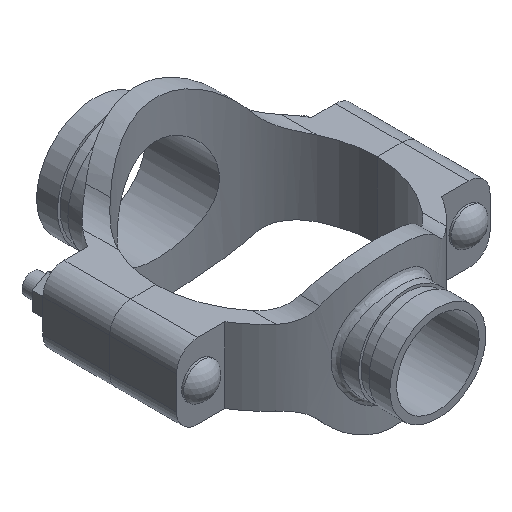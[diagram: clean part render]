
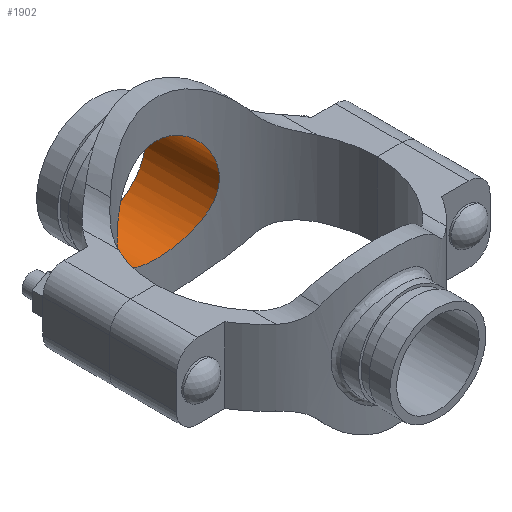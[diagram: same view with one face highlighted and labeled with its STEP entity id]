
A CAD part, isometric view. The second image highlights one B-rep face of the part: STEP entity #1902.
In plain terms, the highlighted cylindrical face has radius 38.894 mm (diameter 77.787 mm), a full revolution.
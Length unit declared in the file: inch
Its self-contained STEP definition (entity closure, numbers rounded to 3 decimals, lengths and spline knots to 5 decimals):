
#33=B_SPLINE_CURVE_WITH_KNOTS('',3,(#3260,#3261,#3262,#3263,#3264,#3265,
#3266,#3267,#3268,#3269,#3270,#3271,#3272,#3273,#3274,#3275,#3276,#3277,
#3278,#3279,#3280,#3281,#3282,#3283,#3284,#3285,#3286,#3287,#3288,#3289,
#3290,#3291,#3292,#3293,#3294,#3295,#3296,#3297,#3298,#3299,#3300,#3301,
#3302,#3303,#3304,#3305,#3306,#3307,#3308,#3309,#3310,#3311,#3312,#3313,
#3314,#3315,#3316,#3317,#3318,#3319,#3320,#3321,#3322,#3323,#3324,#3325),
 .UNSPECIFIED.,.T.,.F.,(4,2,2,2,2,2,2,2,2,2,2,2,2,2,2,2,2,2,2,2,2,2,2,2,
2,2,2,2,2,2,2,2,4),(0.,0.74578,1.49156,2.23734,
2.98312,3.72747,4.47183,5.21618,5.96054,
6.70489,7.44924,8.1936,8.93795,9.68373,
10.42951,11.17529,11.92107,12.66685,13.41263,
14.15841,14.90419,15.64855,16.3929,17.13726,
17.88161,18.62596,19.37032,20.11467,20.85903,
21.60481,22.35059,23.09637,23.84215),
 .UNSPECIFIED.);
#71=CYLINDRICAL_SURFACE('',#2102,1.53125);
#168=FACE_OUTER_BOUND('',#279,.T.);
#279=EDGE_LOOP('',(#1352,#1353,#1354,#1355));
#422=LINE('',#3259,#568);
#568=VECTOR('',#2434,1.53125);
#687=CIRCLE('',#2103,1.53125);
#814=VERTEX_POINT('',#3256);
#815=VERTEX_POINT('',#3258);
#1020=EDGE_CURVE('',#814,#814,#687,.T.);
#1021=EDGE_CURVE('',#814,#815,#422,.T.);
#1022=EDGE_CURVE('',#815,#815,#33,.T.);
#1352=ORIENTED_EDGE('',*,*,#1020,.F.);
#1353=ORIENTED_EDGE('',*,*,#1021,.T.);
#1354=ORIENTED_EDGE('',*,*,#1022,.F.);
#1355=ORIENTED_EDGE('',*,*,#1021,.F.);
#1902=ADVANCED_FACE('',(#168),#71,.F.);
#2102=AXIS2_PLACEMENT_3D('',#3255,#2430,#2431);
#2103=AXIS2_PLACEMENT_3D('',#3257,#2432,#2433);
#2430=DIRECTION('center_axis',(0.,-1.,0.));
#2431=DIRECTION('ref_axis',(-1.,0.,0.));
#2432=DIRECTION('center_axis',(0.,-1.,0.));
#2433=DIRECTION('ref_axis',(-1.,0.,0.));
#2434=DIRECTION('',(0.,-1.,0.));
#3255=CARTESIAN_POINT('Origin',(0.,5.13,0.));
#3256=CARTESIAN_POINT('',(1.53125,5.13,0.));
#3257=CARTESIAN_POINT('Origin',(0.,5.13,0.));
#3258=CARTESIAN_POINT('',(1.53125,2.93733,0.));
#3259=CARTESIAN_POINT('',(1.53125,5.13,0.));
#3260=CARTESIAN_POINT('Ctrl Pts',(1.53125,2.93733,0.));
#3261=CARTESIAN_POINT('Ctrl Pts',(1.53125,2.93733,-0.09787));
#3262=CARTESIAN_POINT('Ctrl Pts',(1.52172,2.94237,-0.1985));
#3263=CARTESIAN_POINT('Ctrl Pts',(1.48221,2.96246,-0.39759));
#3264=CARTESIAN_POINT('Ctrl Pts',(1.45225,2.9775,-0.49606));
#3265=CARTESIAN_POINT('Ctrl Pts',(1.37371,3.01454,-0.68412));
#3266=CARTESIAN_POINT('Ctrl Pts',(1.32507,3.03653,-0.77388));
#3267=CARTESIAN_POINT('Ctrl Pts',(1.21321,3.08293,-0.93959));
#3268=CARTESIAN_POINT('Ctrl Pts',(1.14998,3.10729,-1.01553));
#3269=CARTESIAN_POINT('Ctrl Pts',(1.01566,3.15375,-1.14985));
#3270=CARTESIAN_POINT('Ctrl Pts',(0.93978,3.17755,-1.21307));
#3271=CARTESIAN_POINT('Ctrl Pts',(0.77405,3.22194,-1.32498));
#3272=CARTESIAN_POINT('Ctrl Pts',(0.68419,3.24248,-1.37369));
#3273=CARTESIAN_POINT('Ctrl Pts',(0.49594,3.27656,-1.4523));
#3274=CARTESIAN_POINT('Ctrl Pts',(0.39737,3.2901,-1.48227));
#3275=CARTESIAN_POINT('Ctrl Pts',(0.19825,3.30807,-1.52175));
#3276=CARTESIAN_POINT('Ctrl Pts',(0.09768,3.3125,-1.53125));
#3277=CARTESIAN_POINT('Ctrl Pts',(-0.09768,3.3125,-1.53125));
#3278=CARTESIAN_POINT('Ctrl Pts',(-0.19825,3.30807,-1.52175));
#3279=CARTESIAN_POINT('Ctrl Pts',(-0.39737,3.2901,-1.48227));
#3280=CARTESIAN_POINT('Ctrl Pts',(-0.49594,3.27656,-1.4523));
#3281=CARTESIAN_POINT('Ctrl Pts',(-0.68419,3.24248,-1.37369));
#3282=CARTESIAN_POINT('Ctrl Pts',(-0.77405,3.22194,-1.32498));
#3283=CARTESIAN_POINT('Ctrl Pts',(-0.93978,3.17755,-1.21307));
#3284=CARTESIAN_POINT('Ctrl Pts',(-1.01566,3.15375,-1.14985));
#3285=CARTESIAN_POINT('Ctrl Pts',(-1.14998,3.10729,-1.01553));
#3286=CARTESIAN_POINT('Ctrl Pts',(-1.21321,3.08293,-0.93959));
#3287=CARTESIAN_POINT('Ctrl Pts',(-1.32507,3.03653,-0.77388));
#3288=CARTESIAN_POINT('Ctrl Pts',(-1.37371,3.01454,-0.68412));
#3289=CARTESIAN_POINT('Ctrl Pts',(-1.45225,2.9775,-0.49606));
#3290=CARTESIAN_POINT('Ctrl Pts',(-1.48221,2.96246,-0.39759));
#3291=CARTESIAN_POINT('Ctrl Pts',(-1.52172,2.94237,-0.1985));
#3292=CARTESIAN_POINT('Ctrl Pts',(-1.53125,2.93733,-0.09787));
#3293=CARTESIAN_POINT('Ctrl Pts',(-1.53125,2.93733,0.09787));
#3294=CARTESIAN_POINT('Ctrl Pts',(-1.52172,2.94237,0.1985));
#3295=CARTESIAN_POINT('Ctrl Pts',(-1.48221,2.96246,0.39759));
#3296=CARTESIAN_POINT('Ctrl Pts',(-1.45225,2.9775,0.49606));
#3297=CARTESIAN_POINT('Ctrl Pts',(-1.37371,3.01454,0.68412));
#3298=CARTESIAN_POINT('Ctrl Pts',(-1.32507,3.03653,0.77388));
#3299=CARTESIAN_POINT('Ctrl Pts',(-1.21321,3.08293,0.93959));
#3300=CARTESIAN_POINT('Ctrl Pts',(-1.14998,3.10729,1.01553));
#3301=CARTESIAN_POINT('Ctrl Pts',(-1.01566,3.15375,1.14985));
#3302=CARTESIAN_POINT('Ctrl Pts',(-0.93978,3.17755,1.21307));
#3303=CARTESIAN_POINT('Ctrl Pts',(-0.77405,3.22194,1.32498));
#3304=CARTESIAN_POINT('Ctrl Pts',(-0.68419,3.24248,1.37369));
#3305=CARTESIAN_POINT('Ctrl Pts',(-0.49594,3.27656,1.4523));
#3306=CARTESIAN_POINT('Ctrl Pts',(-0.39737,3.2901,1.48227));
#3307=CARTESIAN_POINT('Ctrl Pts',(-0.19825,3.30807,1.52175));
#3308=CARTESIAN_POINT('Ctrl Pts',(-0.09768,3.3125,1.53125));
#3309=CARTESIAN_POINT('Ctrl Pts',(0.09768,3.3125,1.53125));
#3310=CARTESIAN_POINT('Ctrl Pts',(0.19825,3.30807,1.52175));
#3311=CARTESIAN_POINT('Ctrl Pts',(0.39737,3.2901,1.48227));
#3312=CARTESIAN_POINT('Ctrl Pts',(0.49594,3.27656,1.4523));
#3313=CARTESIAN_POINT('Ctrl Pts',(0.68419,3.24248,1.37369));
#3314=CARTESIAN_POINT('Ctrl Pts',(0.77405,3.22194,1.32498));
#3315=CARTESIAN_POINT('Ctrl Pts',(0.93978,3.17755,1.21307));
#3316=CARTESIAN_POINT('Ctrl Pts',(1.01566,3.15375,1.14985));
#3317=CARTESIAN_POINT('Ctrl Pts',(1.14998,3.10729,1.01553));
#3318=CARTESIAN_POINT('Ctrl Pts',(1.21321,3.08293,0.93959));
#3319=CARTESIAN_POINT('Ctrl Pts',(1.32507,3.03653,0.77388));
#3320=CARTESIAN_POINT('Ctrl Pts',(1.37371,3.01454,0.68412));
#3321=CARTESIAN_POINT('Ctrl Pts',(1.45225,2.9775,0.49606));
#3322=CARTESIAN_POINT('Ctrl Pts',(1.48221,2.96246,0.39759));
#3323=CARTESIAN_POINT('Ctrl Pts',(1.52172,2.94237,0.1985));
#3324=CARTESIAN_POINT('Ctrl Pts',(1.53125,2.93733,0.09787));
#3325=CARTESIAN_POINT('Ctrl Pts',(1.53125,2.93733,0.));
